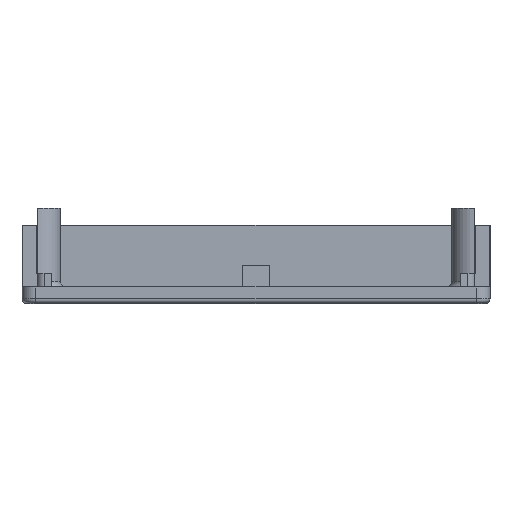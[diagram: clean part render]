
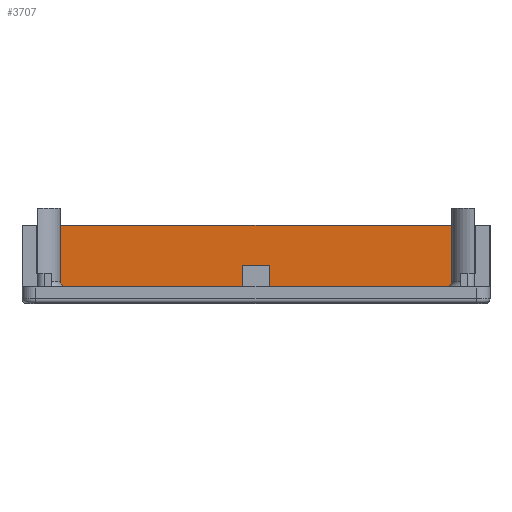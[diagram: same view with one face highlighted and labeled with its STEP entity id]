
A CAD part, left-side view. The second image highlights one B-rep face of the part: STEP entity #3707.
In plain terms, the highlighted planar face has unit normal (-1, 0, 0).
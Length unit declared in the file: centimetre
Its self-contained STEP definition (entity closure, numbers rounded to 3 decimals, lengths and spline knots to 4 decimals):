
#446=FACE_OUTER_BOUND($,#664,.T.);
#664=EDGE_LOOP($,(#2791,#2792,#2793,#2794));
#946=LINE($,#6356,#1293);
#947=LINE($,#6358,#1294);
#948=LINE($,#6360,#1295);
#949=LINE($,#6361,#1296);
#1293=VECTOR($,#4732,9.524);
#1294=VECTOR($,#4733,1.545);
#1295=VECTOR($,#4734,9.524);
#1296=VECTOR($,#4735,1.545);
#1685=VERTEX_POINT($,#6354);
#1686=VERTEX_POINT($,#6355);
#1687=VERTEX_POINT($,#6357);
#1688=VERTEX_POINT($,#6359);
#2123=EDGE_CURVE($,#1685,#1686,#946,.F.);
#2124=EDGE_CURVE($,#1685,#1687,#947,.T.);
#2125=EDGE_CURVE($,#1687,#1688,#948,.T.);
#2126=EDGE_CURVE($,#1688,#1686,#949,.T.);
#2791=ORIENTED_EDGE($,*,*,#2123,.F.);
#2792=ORIENTED_EDGE($,*,*,#2124,.T.);
#2793=ORIENTED_EDGE($,*,*,#2125,.T.);
#2794=ORIENTED_EDGE($,*,*,#2126,.T.);
#3536=PLANE($,#4016);
#3707=ADVANCED_FACE($,(#446),#3536,.T.);
#4016=AXIS2_PLACEMENT_3D($,#6353,#4730,#4731);
#4730=DIRECTION('center_axis',(-1.,0.,0.));
#4731=DIRECTION('ref_axis',(0.,0.,-1.));
#4732=DIRECTION($,(0.,1.,0.));
#4733=DIRECTION($,(0.,0.,-1.));
#4734=DIRECTION($,(0.,-1.,0.));
#4735=DIRECTION($,(0.,0.,1.));
#6353=CARTESIAN_POINT('Origin',(1.684,-69.7412,-1.0146));
#6354=CARTESIAN_POINT('',(1.684,-65.211,1.3304));
#6355=CARTESIAN_POINT('',(1.684,-74.735,1.3304));
#6356=CARTESIAN_POINT($,(1.684,-69.8571,1.3304));
#6357=CARTESIAN_POINT('',(1.684,-65.211,-0.2146));
#6358=CARTESIAN_POINT($,(1.684,-65.211,0.1654));
#6359=CARTESIAN_POINT('',(1.684,-74.735,-0.2146));
#6360=CARTESIAN_POINT($,(1.684,-69.7412,-0.2146));
#6361=CARTESIAN_POINT($,(1.684,-74.735,0.1654));
